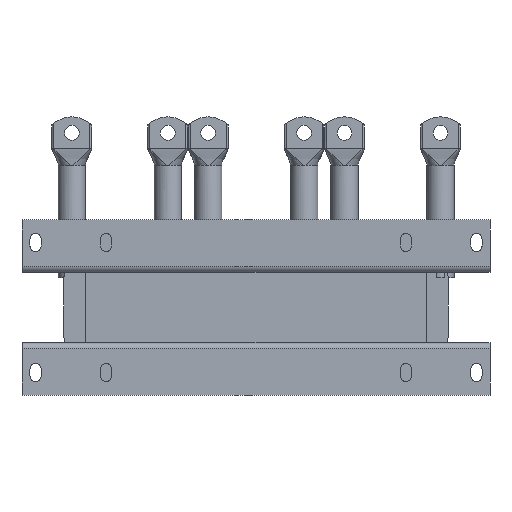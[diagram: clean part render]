
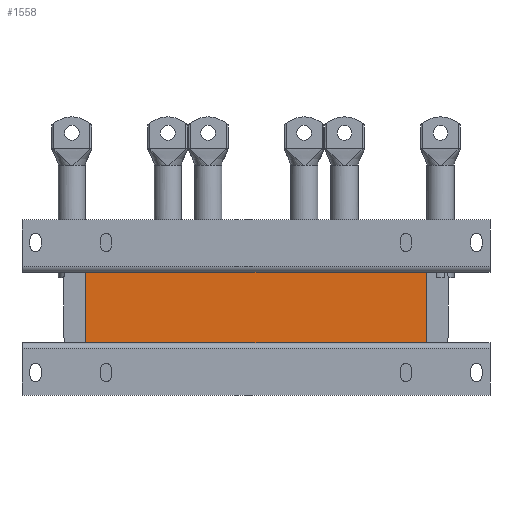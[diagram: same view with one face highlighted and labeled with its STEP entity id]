
A CAD part, front view. The second image highlights one B-rep face of the part: STEP entity #1558.
In plain terms, the highlighted planar face has unit normal (0, -1, 0).
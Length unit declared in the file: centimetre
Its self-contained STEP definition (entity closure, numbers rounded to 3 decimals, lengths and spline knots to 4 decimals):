
#293 = VECTOR ( 'NONE', #3181, 100. ) ;
#593 = CARTESIAN_POINT ( 'NONE',  ( -15., 0.5, -3.115 ) ) ;
#917 = CARTESIAN_POINT ( 'NONE',  ( -15., 0.5, 3.115 ) ) ;
#1066 = DIRECTION ( 'NONE',  ( 0., 0., 1. ) ) ;
#1558 = ADVANCED_FACE ( 'NONE', ( #2400 ), #2321, .F. ) ;
#1650 = CARTESIAN_POINT ( 'NONE',  ( 15., 0.5, 33.8324 ) ) ;
#1842 = VECTOR ( 'NONE', #12798, 100. ) ;
#1853 = LINE ( 'NONE', #593, #293 ) ;
#2321 = PLANE ( 'NONE',  #9103 ) ;
#2400 = FACE_OUTER_BOUND ( 'NONE', #11543, .T. ) ;
#3065 = CARTESIAN_POINT ( 'NONE',  ( 15., 0.5, 3.115 ) ) ;
#3181 = DIRECTION ( 'NONE',  ( 1., 0., 0. ) ) ;
#3493 = EDGE_CURVE ( 'NONE', #14788, #3832, #1853, .T. ) ;
#3832 = VERTEX_POINT ( 'NONE', #4397 ) ;
#4397 = CARTESIAN_POINT ( 'NONE',  ( 15., 0.5, -3.115 ) ) ;
#4499 = ORIENTED_EDGE ( 'NONE', *, *, #8586, .T. ) ;
#5564 = VERTEX_POINT ( 'NONE', #917 ) ;
#6056 = VERTEX_POINT ( 'NONE', #3065 ) ;
#6713 = VECTOR ( 'NONE', #14813, 100. ) ;
#6905 = CARTESIAN_POINT ( 'NONE',  ( -15., 0.5, 3.115 ) ) ;
#7419 = EDGE_CURVE ( 'NONE', #5564, #6056, #12229, .T. ) ;
#8180 = ORIENTED_EDGE ( 'NONE', *, *, #7419, .F. ) ;
#8586 = EDGE_CURVE ( 'NONE', #5564, #14788, #8879, .T. ) ;
#8879 = LINE ( 'NONE', #11463, #1842 ) ;
#9103 = AXIS2_PLACEMENT_3D ( 'NONE', #16448, #16205, #1066 ) ;
#9926 = EDGE_CURVE ( 'NONE', #6056, #3832, #11371, .T. ) ;
#10029 = DIRECTION ( 'NONE',  ( 0., 0., -1. ) ) ;
#11371 = LINE ( 'NONE', #1650, #15248 ) ;
#11463 = CARTESIAN_POINT ( 'NONE',  ( -15., 0.5, 33.8324 ) ) ;
#11543 = EDGE_LOOP ( 'NONE', ( #12728, #16294, #8180, #4499 ) ) ;
#12229 = LINE ( 'NONE', #6905, #6713 ) ;
#12728 = ORIENTED_EDGE ( 'NONE', *, *, #3493, .T. ) ;
#12798 = DIRECTION ( 'NONE',  ( 0., 0., -1. ) ) ;
#13688 = CARTESIAN_POINT ( 'NONE',  ( -15., 0.5, -3.115 ) ) ;
#14788 = VERTEX_POINT ( 'NONE', #13688 ) ;
#14813 = DIRECTION ( 'NONE',  ( 1., 0., 0. ) ) ;
#15248 = VECTOR ( 'NONE', #10029, 100. ) ;
#16205 = DIRECTION ( 'NONE',  ( 0., 1., 0. ) ) ;
#16294 = ORIENTED_EDGE ( 'NONE', *, *, #9926, .F. ) ;
#16448 = CARTESIAN_POINT ( 'NONE',  ( -15., 0.5, 33.8324 ) ) ;
